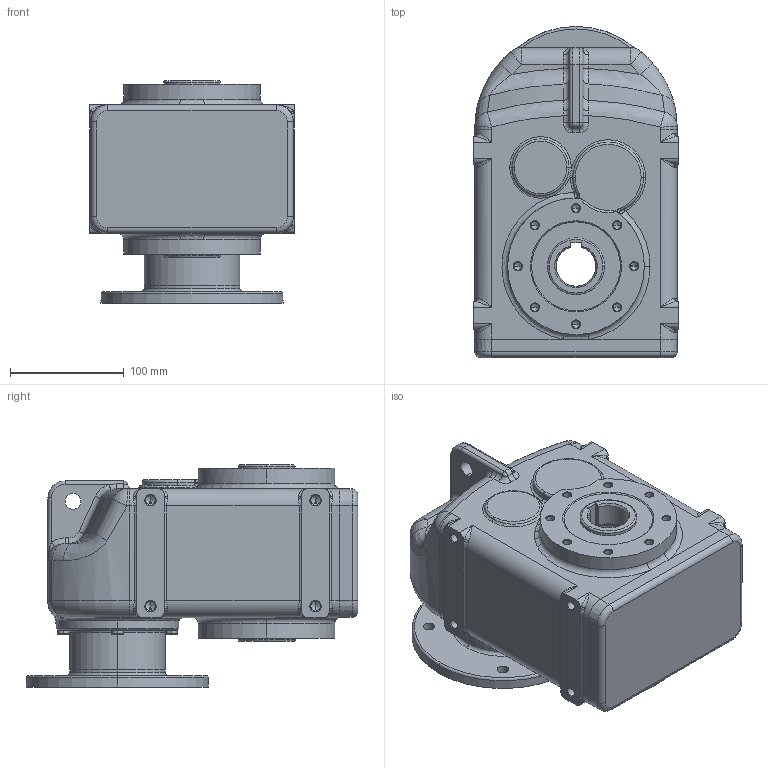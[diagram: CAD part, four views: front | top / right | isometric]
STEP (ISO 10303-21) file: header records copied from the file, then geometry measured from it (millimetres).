
FILE_DESCRIPTION (( 'STEP AP214' ), '1' );
FILE_NAME ('tnc22-f130-ap100.STEP', '2009-09-24T07:05:53', ( '' ), ( '' ), 'SwSTEP 2.0', 'SolidWorks 2003240', '' );
FILE_SCHEMA (( 'AUTOMOTIVE_DESIGN' ));
Length unit declared in the file: millimetre
Products named in the file (4): Pøíruba MRT80 kulatá _110-130-160; Skøíò TNC2_Skøíò TNC22 AP100; D6912_Šroub DIN 6912 - M6x20; tnc22-f130-ap100
Assembly tree (8 placements, depth 2):
  tnc22-f130-ap100
    D6912_Šroub DIN 6912 - M6x20  x6
    Pøíruba MRT80 kulatá _110-130-160
    Skøíò TNC2_Skøíò TNC22 AP100
Bounding box: 180 x 291 x 195 mm (x, y, z)
Volume: 5669246.4 mm3; surface area: 301755.2 mm2
Topology: 8 solids, 8 shells, 858 faces, 1910 edges, 1039 vertices
Faces by surface type: cylinder 246, cone 241, plane 175, torus 128, bspline 62, sphere 6
Entity records: 82583 total; most frequent: CARTESIAN_POINT 66645, DIRECTION 3449, ORIENTED_EDGE 2992, EDGE_CURVE 1496, AXIS2_PLACEMENT_3D 1451, VERTEX_POINT 884, CIRCLE 829, EDGE_LOOP 754
